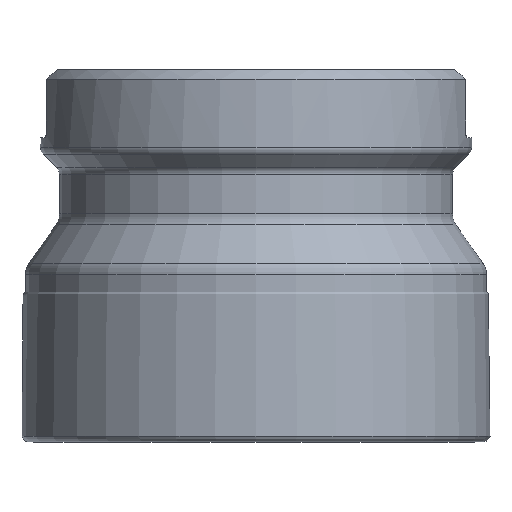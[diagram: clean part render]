
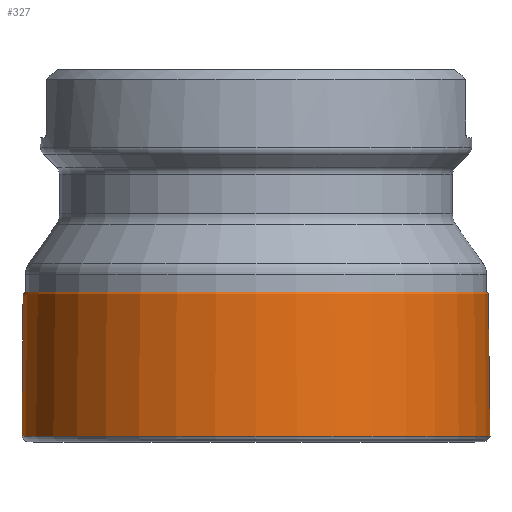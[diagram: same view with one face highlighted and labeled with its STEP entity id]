
A CAD part, front view. The second image highlights one B-rep face of the part: STEP entity #327.
In plain terms, the highlighted face is a revolution surface.
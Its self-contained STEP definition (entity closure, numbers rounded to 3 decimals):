
#59=SURFACE_OF_REVOLUTION('',#192,#65);
#65=AXIS1_PLACEMENT('',#1838,#1311);
#192=B_SPLINE_CURVE_WITH_KNOTS('',3,(#1801,#1802,#1803,#1804,#1805,#1806,
#1807,#1808,#1809,#1810,#1811,#1812,#1813,#1814,#1815,#1816,#1817,#1818,
#1819,#1820,#1821,#1822,#1823,#1824,#1825,#1826,#1827,#1828,#1829,#1830,
#1831,#1832,#1833,#1834,#1835,#1836,#1837),.UNSPECIFIED.,.F.,.F.,(4,3,3,
3,3,3,3,3,3,3,3,3,4),(0.,0.368,0.631,0.718,
0.777,0.816,0.855,0.871,0.887,
0.902,0.918,0.981,1.),.UNSPECIFIED.);
#260=FACE_BOUND('',#463,.T.);
#261=FACE_BOUND('',#464,.T.);
#327=ADVANCED_FACE('',(#260,#261),#59,.F.);
#463=EDGE_LOOP('',(#719));
#464=EDGE_LOOP('',(#720));
#719=ORIENTED_EDGE('',*,*,#909,.T.);
#720=ORIENTED_EDGE('',*,*,#910,.F.);
#805=VERTEX_POINT('',#1798);
#806=VERTEX_POINT('',#1800);
#909=EDGE_CURVE('',#805,#805,#961,.T.);
#910=EDGE_CURVE('',#806,#806,#962,.T.);
#961=CIRCLE('',#1069,22.114);
#962=CIRCLE('',#1070,24.412);
#1069=AXIS2_PLACEMENT_3D('',#1797,#1307,#1308);
#1070=AXIS2_PLACEMENT_3D('',#1799,#1309,#1310);
#1307=DIRECTION('',(0.,0.,-1.));
#1308=DIRECTION('',(-1.,0.,0.));
#1309=DIRECTION('',(0.,0.,-1.));
#1310=DIRECTION('',(-1.,0.,0.));
#1311=DIRECTION('',(0.,0.,-1.));
#1797=CARTESIAN_POINT('',(0.,0.,17.109));
#1798=CARTESIAN_POINT('',(-22.114,0.,17.109));
#1799=CARTESIAN_POINT('',(0.,0.,1.762));
#1800=CARTESIAN_POINT('',(-24.412,0.,1.762));
#1801=CARTESIAN_POINT('',(0.,24.412,1.762));
#1802=CARTESIAN_POINT('',(0.,24.401,3.87));
#1803=CARTESIAN_POINT('',(0.,24.375,5.978));
#1804=CARTESIAN_POINT('',(0.,24.357,8.087));
#1805=CARTESIAN_POINT('',(0.,24.345,9.593));
#1806=CARTESIAN_POINT('',(0.,24.333,11.1));
#1807=CARTESIAN_POINT('',(0.,24.321,12.607));
#1808=CARTESIAN_POINT('',(0.,24.317,13.107));
#1809=CARTESIAN_POINT('',(0.,24.313,13.608));
#1810=CARTESIAN_POINT('',(0.,24.31,14.109));
#1811=CARTESIAN_POINT('',(0.,24.307,14.443));
#1812=CARTESIAN_POINT('',(0.,24.305,14.777));
#1813=CARTESIAN_POINT('',(0.,24.302,15.112));
#1814=CARTESIAN_POINT('',(0.,24.301,15.336));
#1815=CARTESIAN_POINT('',(0.,24.299,15.56));
#1816=CARTESIAN_POINT('',(0.,24.298,15.784));
#1817=CARTESIAN_POINT('',(0.,24.296,16.009));
#1818=CARTESIAN_POINT('',(0.,24.319,16.236));
#1819=CARTESIAN_POINT('',(0.,24.281,16.457));
#1820=CARTESIAN_POINT('',(0.,24.266,16.545));
#1821=CARTESIAN_POINT('',(0.,24.234,16.632));
#1822=CARTESIAN_POINT('',(0.,24.191,16.711));
#1823=CARTESIAN_POINT('',(0.,24.147,16.789));
#1824=CARTESIAN_POINT('',(0.,24.09,16.862));
#1825=CARTESIAN_POINT('',(0.,24.023,16.921));
#1826=CARTESIAN_POINT('',(0.,23.956,16.98));
#1827=CARTESIAN_POINT('',(0.,23.878,17.028));
#1828=CARTESIAN_POINT('',(0.,23.796,17.062));
#1829=CARTESIAN_POINT('',(0.,23.713,17.096));
#1830=CARTESIAN_POINT('',(0.,23.622,17.116));
#1831=CARTESIAN_POINT('',(0.,23.532,17.121));
#1832=CARTESIAN_POINT('',(0.,23.172,17.142));
#1833=CARTESIAN_POINT('',(0.,22.811,17.116));
#1834=CARTESIAN_POINT('',(0.,22.45,17.112));
#1835=CARTESIAN_POINT('',(0.,22.338,17.111));
#1836=CARTESIAN_POINT('',(0.,22.226,17.11));
#1837=CARTESIAN_POINT('',(0.,22.114,17.109));
#1838=CARTESIAN_POINT('',(0.,0.,0.));
